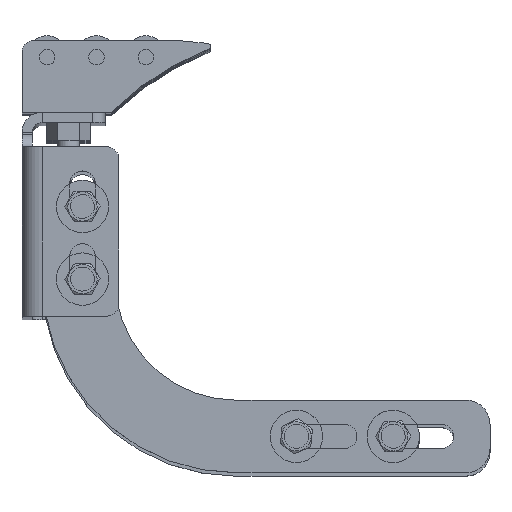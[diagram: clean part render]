
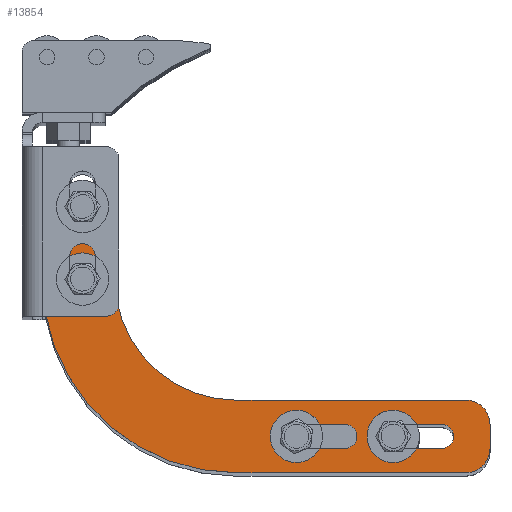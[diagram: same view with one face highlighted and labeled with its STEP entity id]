
A CAD part, top view. The second image highlights one B-rep face of the part: STEP entity #13854.
In plain terms, the highlighted planar face has unit normal (0, 0, 1) as drawn and (0, 0, -1) by its records, which use the part's own axes.
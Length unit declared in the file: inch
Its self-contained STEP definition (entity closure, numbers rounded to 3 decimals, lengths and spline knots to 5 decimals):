
#13296=DIRECTION('',(0.,-1.,0.));
#13297=VECTOR('',#13296,0.75);
#13298=CARTESIAN_POINT('',(0.,2.75,-0.25));
#13299=LINE('',#13298,#13297);
#13300=CARTESIAN_POINT('',(-0.25,2.75,-0.25));
#13301=DIRECTION('',(0.,0.,-1.));
#13302=DIRECTION('',(0.,1.,0.));
#13303=AXIS2_PLACEMENT_3D('',#13300,#13301,#13302);
#13305=DIRECTION('',(1.,0.,0.));
#13306=VECTOR('',#13305,0.25);
#13307=CARTESIAN_POINT('',(-0.5,3.,-0.25));
#13308=LINE('',#13307,#13306);
#13309=CARTESIAN_POINT('',(-0.5,2.75,-0.25));
#13310=DIRECTION('',(0.,0.,-1.));
#13311=DIRECTION('',(-1.,0.,0.));
#13312=AXIS2_PLACEMENT_3D('',#13309,#13310,#13311);
#13314=DIRECTION('',(0.,1.,0.));
#13315=VECTOR('',#13314,0.75);
#13316=CARTESIAN_POINT('',(-0.75,2.,-0.25));
#13317=LINE('',#13316,#13315);
#13318=CARTESIAN_POINT('',(-2.,2.,-0.25));
#13319=DIRECTION('',(0.,0.,1.));
#13320=DIRECTION('',(0.,-1.,0.));
#13321=AXIS2_PLACEMENT_3D('',#13318,#13319,#13320);
#13323=DIRECTION('',(1.,0.,0.));
#13324=VECTOR('',#13323,2.375);
#13325=CARTESIAN_POINT('',(-4.375,0.75,-0.25));
#13326=LINE('',#13325,#13324);
#13327=CARTESIAN_POINT('',(-4.375,0.5,-0.25));
#13328=DIRECTION('',(0.,0.,-1.));
#13329=DIRECTION('',(-1.,0.,0.));
#13330=AXIS2_PLACEMENT_3D('',#13327,#13328,#13329);
#13332=DIRECTION('',(0.,1.,0.));
#13333=VECTOR('',#13332,0.25);
#13334=CARTESIAN_POINT('',(-4.625,0.25,-0.25));
#13335=LINE('',#13334,#13333);
#13336=CARTESIAN_POINT('',(-4.375,0.25,-0.25));
#13337=DIRECTION('',(0.,0.,-1.));
#13338=DIRECTION('',(0.,-1.,0.));
#13339=AXIS2_PLACEMENT_3D('',#13336,#13337,#13338);
#13341=DIRECTION('',(-1.,0.,0.));
#13342=VECTOR('',#13341,2.375);
#13343=CARTESIAN_POINT('',(-2.,0.,-0.25));
#13344=LINE('',#13343,#13342);
#13345=CARTESIAN_POINT('',(-2.,2.,-0.25));
#13346=DIRECTION('',(0.,0.,-1.));
#13347=DIRECTION('',(1.,0.,0.));
#13348=AXIS2_PLACEMENT_3D('',#13345,#13346,#13347);
#13350=CARTESIAN_POINT('',(-0.4145,2.,-0.25));
#13351=DIRECTION('',(0.,0.,1.));
#13352=DIRECTION('',(1.,0.,0.));
#13353=AXIS2_PLACEMENT_3D('',#13350,#13351,#13352);
#13355=CARTESIAN_POINT('',(-0.4145,2.,-0.25));
#13356=DIRECTION('',(0.,0.,1.));
#13357=DIRECTION('',(-1.,0.,0.));
#13358=AXIS2_PLACEMENT_3D('',#13355,#13356,#13357);
#13360=CARTESIAN_POINT('',(-0.4145,2.75,-0.25));
#13361=DIRECTION('',(0.,0.,1.));
#13362=DIRECTION('',(1.,0.,0.));
#13363=AXIS2_PLACEMENT_3D('',#13360,#13361,#13362);
#13365=CARTESIAN_POINT('',(-0.4145,2.75,-0.25));
#13366=DIRECTION('',(0.,0.,1.));
#13367=DIRECTION('',(-1.,0.,0.));
#13368=AXIS2_PLACEMENT_3D('',#13365,#13366,#13367);
#13370=CARTESIAN_POINT('',(-2.625,0.375,-0.25));
#13371=DIRECTION('',(0.,0.,1.));
#13372=DIRECTION('',(1.,0.,0.));
#13373=AXIS2_PLACEMENT_3D('',#13370,#13371,#13372);
#13375=CARTESIAN_POINT('',(-2.625,0.375,-0.25));
#13376=DIRECTION('',(0.,0.,1.));
#13377=DIRECTION('',(0.,-1.,0.));
#13378=AXIS2_PLACEMENT_3D('',#13375,#13376,#13377);
#13380=CARTESIAN_POINT('',(-3.125,0.375,-0.25));
#13381=DIRECTION('',(0.,0.,1.));
#13382=DIRECTION('',(-1.,0.,0.));
#13383=AXIS2_PLACEMENT_3D('',#13380,#13381,#13382);
#13385=CARTESIAN_POINT('',(-3.125,0.375,-0.25));
#13386=DIRECTION('',(0.,0.,1.));
#13387=DIRECTION('',(0.,1.,0.));
#13388=AXIS2_PLACEMENT_3D('',#13385,#13386,#13387);
#13390=CARTESIAN_POINT('',(-3.625,0.375,-0.25));
#13391=DIRECTION('',(0.,0.,1.));
#13392=DIRECTION('',(1.,0.,0.));
#13393=AXIS2_PLACEMENT_3D('',#13390,#13391,#13392);
#13395=CARTESIAN_POINT('',(-3.625,0.375,-0.25));
#13396=DIRECTION('',(0.,0.,1.));
#13397=DIRECTION('',(0.,-1.,0.));
#13398=AXIS2_PLACEMENT_3D('',#13395,#13396,#13397);
#13400=CARTESIAN_POINT('',(-4.125,0.375,-0.25));
#13401=DIRECTION('',(0.,0.,1.));
#13402=DIRECTION('',(-1.,0.,0.));
#13403=AXIS2_PLACEMENT_3D('',#13400,#13401,#13402);
#13405=CARTESIAN_POINT('',(-4.125,0.375,-0.25));
#13406=DIRECTION('',(0.,0.,1.));
#13407=DIRECTION('',(0.,1.,0.));
#13408=AXIS2_PLACEMENT_3D('',#13405,#13406,#13407);
#13612=DIRECTION('',(1.,0.,0.));
#13613=VECTOR('',#13612,0.5);
#13614=CARTESIAN_POINT('',(-3.125,0.5,-0.25));
#13615=LINE('',#13614,#13613);
#13628=DIRECTION('',(-1.,0.,0.));
#13629=VECTOR('',#13628,0.5);
#13630=CARTESIAN_POINT('',(-2.625,0.25,-0.25));
#13631=LINE('',#13630,#13629);
#13640=DIRECTION('',(1.,0.,0.));
#13641=VECTOR('',#13640,0.5);
#13642=CARTESIAN_POINT('',(-4.125,0.5,-0.25));
#13643=LINE('',#13642,#13641);
#13644=DIRECTION('',(-1.,0.,0.));
#13645=VECTOR('',#13644,0.5);
#13646=CARTESIAN_POINT('',(-3.625,0.25,-0.25));
#13647=LINE('',#13646,#13645);
#13660=CARTESIAN_POINT('',(-2.,0.75,-0.25));
#13661=CARTESIAN_POINT('',(-0.75,2.,-0.25));
#13662=VERTEX_POINT('',#13660);
#13663=VERTEX_POINT('',#13661);
#13664=CARTESIAN_POINT('',(-3.5,0.375,-0.25));
#13665=VERTEX_POINT('',#13664);
#13676=CARTESIAN_POINT('',(-3.625,0.25,-0.25));
#13677=VERTEX_POINT('',#13676);
#13678=CARTESIAN_POINT('',(-4.625,0.5,-0.25));
#13680=VERTEX_POINT('',#13678);
#13682=CARTESIAN_POINT('',(-0.51293,2.75,-0.25));
#13683=CARTESIAN_POINT('',(-0.31607,2.75,-0.25));
#13684=VERTEX_POINT('',#13682);
#13685=VERTEX_POINT('',#13683);
#13686=CARTESIAN_POINT('',(-4.375,0.,-0.25));
#13687=CARTESIAN_POINT('',(-4.625,0.25,-0.25));
#13688=VERTEX_POINT('',#13686);
#13689=VERTEX_POINT('',#13687);
#13690=CARTESIAN_POINT('',(-0.25,3.,-0.25));
#13691=CARTESIAN_POINT('',(0.,2.75,-0.25));
#13692=VERTEX_POINT('',#13690);
#13693=VERTEX_POINT('',#13691);
#13694=CARTESIAN_POINT('',(-3.125,0.5,-0.25));
#13695=CARTESIAN_POINT('',(-3.25,0.375,-0.25));
#13696=VERTEX_POINT('',#13694);
#13697=VERTEX_POINT('',#13695);
#13698=CARTESIAN_POINT('',(-3.125,0.25,-0.25));
#13699=VERTEX_POINT('',#13698);
#13700=CARTESIAN_POINT('',(-4.375,0.75,-0.25));
#13701=VERTEX_POINT('',#13700);
#13702=CARTESIAN_POINT('',(-2.625,0.25,-0.25));
#13703=VERTEX_POINT('',#13702);
#13704=CARTESIAN_POINT('',(-2.625,0.5,-0.25));
#13705=VERTEX_POINT('',#13704);
#13716=CARTESIAN_POINT('',(-4.125,0.5,-0.25));
#13717=VERTEX_POINT('',#13716);
#13724=CARTESIAN_POINT('',(-0.31607,2.,-0.25));
#13725=VERTEX_POINT('',#13724);
#13732=CARTESIAN_POINT('',(-0.75,2.75,-0.25));
#13733=CARTESIAN_POINT('',(-0.5,3.,-0.25));
#13734=VERTEX_POINT('',#13732);
#13735=VERTEX_POINT('',#13733);
#13736=CARTESIAN_POINT('',(-3.625,0.5,-0.25));
#13737=VERTEX_POINT('',#13736);
#13740=CARTESIAN_POINT('',(-2.,0.,-0.25));
#13741=VERTEX_POINT('',#13740);
#13746=CARTESIAN_POINT('',(-2.5,0.375,-0.25));
#13747=VERTEX_POINT('',#13746);
#13752=CARTESIAN_POINT('',(-4.125,0.25,-0.25));
#13753=VERTEX_POINT('',#13752);
#13758=CARTESIAN_POINT('',(-0.51293,2.,-0.25));
#13759=VERTEX_POINT('',#13758);
#13764=CARTESIAN_POINT('',(0.,2.,-0.25));
#13765=VERTEX_POINT('',#13764);
#13766=CARTESIAN_POINT('',(-4.25,0.375,-0.25));
#13767=VERTEX_POINT('',#13766);
#13784=CARTESIAN_POINT('',(0.,0.,-0.25));
#13785=DIRECTION('',(0.,0.,1.));
#13786=DIRECTION('',(1.,0.,0.));
#13787=AXIS2_PLACEMENT_3D('',#13784,#13785,#13786);
#13788=PLANE('',#13787);
#13790=ORIENTED_EDGE('',*,*,#13789,.F.);
#13792=ORIENTED_EDGE('',*,*,#13791,.F.);
#13794=ORIENTED_EDGE('',*,*,#13793,.F.);
#13796=ORIENTED_EDGE('',*,*,#13795,.F.);
#13798=ORIENTED_EDGE('',*,*,#13797,.F.);
#13800=ORIENTED_EDGE('',*,*,#13799,.F.);
#13802=ORIENTED_EDGE('',*,*,#13801,.F.);
#13804=ORIENTED_EDGE('',*,*,#13803,.F.);
#13806=ORIENTED_EDGE('',*,*,#13805,.F.);
#13808=ORIENTED_EDGE('',*,*,#13807,.F.);
#13810=ORIENTED_EDGE('',*,*,#13809,.F.);
#13812=ORIENTED_EDGE('',*,*,#13811,.F.);
#13813=EDGE_LOOP('',(#13790,#13792,#13794,#13796,#13798,#13800,#13802,#13804,
#13806,#13808,#13810,#13812));
#13814=FACE_OUTER_BOUND('',#13813,.F.);
#13816=ORIENTED_EDGE('',*,*,#13815,.F.);
#13818=ORIENTED_EDGE('',*,*,#13817,.F.);
#13819=EDGE_LOOP('',(#13816,#13818));
#13820=FACE_BOUND('',#13819,.F.);
#13822=ORIENTED_EDGE('',*,*,#13821,.F.);
#13824=ORIENTED_EDGE('',*,*,#13823,.F.);
#13825=EDGE_LOOP('',(#13822,#13824));
#13826=FACE_BOUND('',#13825,.F.);
#13828=ORIENTED_EDGE('',*,*,#13827,.T.);
#13830=ORIENTED_EDGE('',*,*,#13829,.F.);
#13832=ORIENTED_EDGE('',*,*,#13831,.F.);
#13834=ORIENTED_EDGE('',*,*,#13833,.T.);
#13836=ORIENTED_EDGE('',*,*,#13835,.F.);
#13838=ORIENTED_EDGE('',*,*,#13837,.F.);
#13839=EDGE_LOOP('',(#13828,#13830,#13832,#13834,#13836,#13838));
#13840=FACE_BOUND('',#13839,.F.);
#13842=ORIENTED_EDGE('',*,*,#13841,.T.);
#13843=ORIENTED_EDGE('',*,*,#13773,.F.);
#13845=ORIENTED_EDGE('',*,*,#13844,.F.);
#13847=ORIENTED_EDGE('',*,*,#13846,.T.);
#13849=ORIENTED_EDGE('',*,*,#13848,.F.);
#13851=ORIENTED_EDGE('',*,*,#13850,.F.);
#13852=EDGE_LOOP('',(#13842,#13843,#13845,#13847,#13849,#13851));
#13853=FACE_BOUND('',#13852,.F.);
#13304=CIRCLE('',#13303,0.25);
#13313=CIRCLE('',#13312,0.25);
#13322=CIRCLE('',#13321,1.25);
#13331=CIRCLE('',#13330,0.25);
#13340=CIRCLE('',#13339,0.25);
#13349=CIRCLE('',#13348,2.);
#13354=CIRCLE('',#13353,0.09843);
#13359=CIRCLE('',#13358,0.09843);
#13364=CIRCLE('',#13363,0.09843);
#13369=CIRCLE('',#13368,0.09843);
#13374=CIRCLE('',#13373,0.125);
#13379=CIRCLE('',#13378,0.125);
#13384=CIRCLE('',#13383,0.125);
#13389=CIRCLE('',#13388,0.125);
#13394=CIRCLE('',#13393,0.125);
#13399=CIRCLE('',#13398,0.125);
#13404=CIRCLE('',#13403,0.125);
#13409=CIRCLE('',#13408,0.125);
#13773=EDGE_CURVE('',#13665,#13737,#13394,.T.);
#13789=EDGE_CURVE('',#13693,#13765,#13299,.T.);
#13791=EDGE_CURVE('',#13692,#13693,#13304,.T.);
#13793=EDGE_CURVE('',#13735,#13692,#13308,.T.);
#13795=EDGE_CURVE('',#13734,#13735,#13313,.T.);
#13797=EDGE_CURVE('',#13663,#13734,#13317,.T.);
#13799=EDGE_CURVE('',#13662,#13663,#13322,.T.);
#13801=EDGE_CURVE('',#13701,#13662,#13326,.T.);
#13803=EDGE_CURVE('',#13680,#13701,#13331,.T.);
#13805=EDGE_CURVE('',#13689,#13680,#13335,.T.);
#13807=EDGE_CURVE('',#13688,#13689,#13340,.T.);
#13809=EDGE_CURVE('',#13741,#13688,#13344,.T.);
#13811=EDGE_CURVE('',#13765,#13741,#13349,.T.);
#13815=EDGE_CURVE('',#13725,#13759,#13354,.T.);
#13817=EDGE_CURVE('',#13759,#13725,#13359,.T.);
#13821=EDGE_CURVE('',#13685,#13684,#13364,.T.);
#13823=EDGE_CURVE('',#13684,#13685,#13369,.T.);
#13827=EDGE_CURVE('',#13696,#13705,#13615,.T.);
#13829=EDGE_CURVE('',#13747,#13705,#13374,.T.);
#13831=EDGE_CURVE('',#13703,#13747,#13379,.T.);
#13833=EDGE_CURVE('',#13703,#13699,#13631,.T.);
#13835=EDGE_CURVE('',#13697,#13699,#13384,.T.);
#13837=EDGE_CURVE('',#13696,#13697,#13389,.T.);
#13841=EDGE_CURVE('',#13717,#13737,#13643,.T.);
#13844=EDGE_CURVE('',#13677,#13665,#13399,.T.);
#13846=EDGE_CURVE('',#13677,#13753,#13647,.T.);
#13848=EDGE_CURVE('',#13767,#13753,#13404,.T.);
#13850=EDGE_CURVE('',#13717,#13767,#13409,.T.);
#13854=ADVANCED_FACE('',(#13814,#13820,#13826,#13840,#13853),#13788,.F.);
